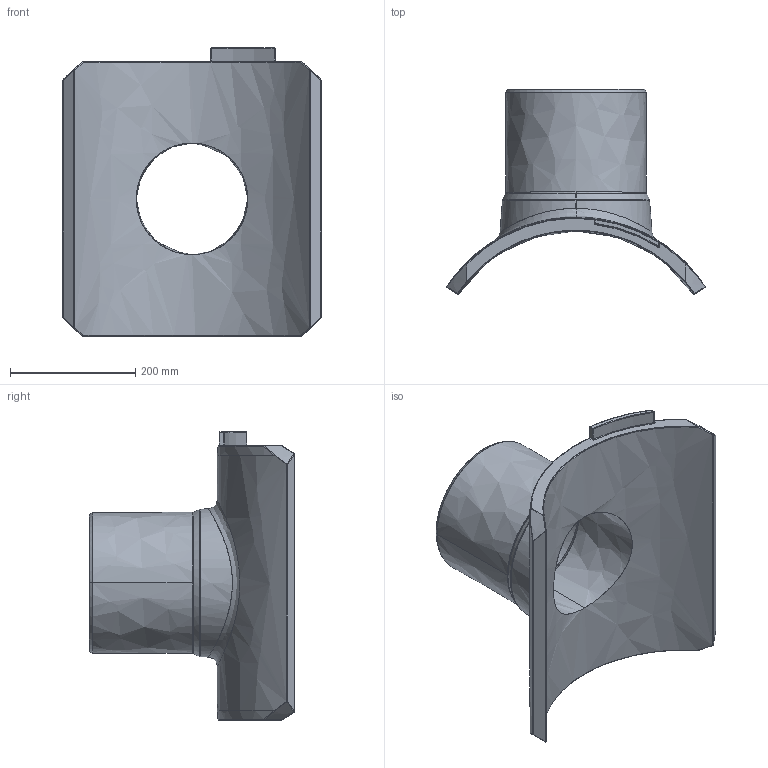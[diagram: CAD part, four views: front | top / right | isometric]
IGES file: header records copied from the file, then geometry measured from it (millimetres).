
Start section:  PTC IGES file: sa-uni_d450_225_01.igs
Global section: file name: sa-uni_d450_225_01.igs; native system: Creo Parametric by PTC Inc.; preprocessor: 2022124; author: mikulicp; organization: Unknown; date: 20240701.111248; units: millimetre
Bounding box: 412.52 x 327.37 x 460 mm (x, y, z)
Surface area: 677271.7 mm2 (no closed solid volume)
Topology: 0 solids, 0 shells, 240 faces, 1156 edges, 1156 vertices
Faces by surface type: bspline 240
